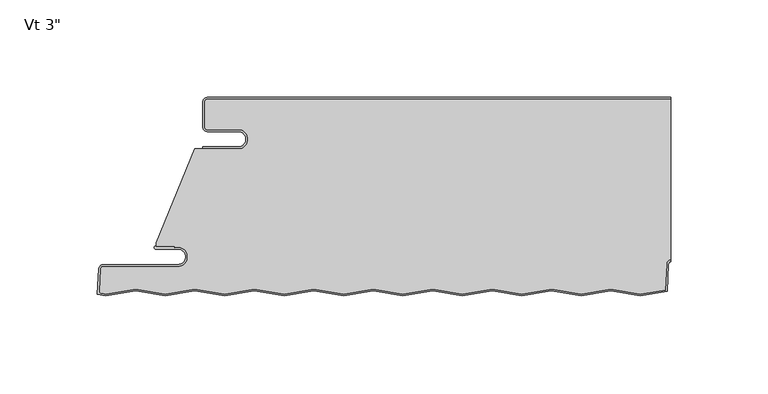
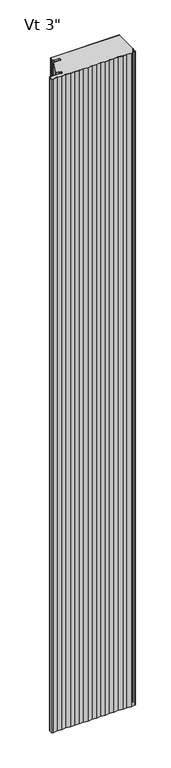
"""IFC4 building model written with IfcOpenShell, lengths in millimetres: plate geometry."""

from ifc_helpers import new_model, si_unit, point, frame, frame_2d, origin, origin_with_axes, place, context, project, spatial, polyline, circle_curve, trimmed, segment, composite_curve, outline, extrude, source, transform, mapped, element, save
from ifc_brep_helpers import plane_surface, cylinder_surface, revolved_surface, advanced_brep


def plate_a6e8fc1d(model_context):
    return source(origin(), model_context, "Body", "SolidModel", [
        extrude(outline(composite_curve([segment(polyline([(-101.3437498, -16.4625), (-117.2187498, -16.4625)]), True, "CONTINUOUS"), segment(trimmed(circle_curve(frame_2d((-117.2187498, -15.08125)), 1.38125), [point((-117.2187498, -16.4625))], [point((-118.5999998, -15.08125))], False, "CARTESIAN"), True, "CONTINUOUS"), segment(polyline([(-118.5999998, -15.08125), (-118.5999998, -2.38125)]), True, "CONTINUOUS"), segment(trimmed(circle_curve(frame_2d((-117.2187498, -2.38125)), 1.38125), [point((-118.5999998, -2.38125))], [point((-117.2187498, -1.0))], False, "CARTESIAN"), True, "CONTINUOUS"), segment(polyline([(-117.2187498, -1.0), (120.4062498, -1.0), (120.4062498, -83.191556)]), True, "CONTINUOUS"), segment(trimmed(circle_curve(frame_2d((120.9323848, -85.725)), 2.5875), [point((120.4062498, -83.191556))], [point((118.3484309, -85.5895807))], True, "CARTESIAN"), True, "CONTINUOUS"), segment(polyline([(118.3484309, -85.5895807), (117.6552662, -98.81595), (104.8725002, -100.8611926), (89.8350676, -98.4552034), (74.5950676, -100.8936034), (59.3550676, -98.4552034), (44.1150676, -100.8936034), (28.8750676, -98.4552034), (13.6350676, -100.8936034), (-1.6049324, -98.4552034), (-16.8449324, -100.8936034), (-32.0849324, -98.4552034), (-47.3249324, -100.8936034), (-62.5649324, -98.4552034), (-77.8049324, -100.8936034), (-93.0449324, -98.4552034), (-108.2849324, -100.8936034), (-123.5249324, -98.4552034), (-138.7649324, -100.8936034), (-154.0049324, -98.4552034), (-169.2449324, -100.8936034), (-171.5109206, -100.5310452)]), True, "CONTINUOUS"), segment(trimmed(circle_curve(frame_2d((-171.0799534, -99.21875)), 1.38125), [point((-171.5109206, -100.5310452))], [point((-172.4593104, -99.146461))], False, "CARTESIAN"), True, "CONTINUOUS"), segment(polyline([(-172.4593104, -99.146461), (-171.876929, -88.033961)]), True, "CONTINUOUS"), segment(trimmed(circle_curve(frame_2d((-170.4975719, -88.10625)), 1.38125), [point((-171.876929, -88.033961))], [point((-170.4975719, -86.725))], False, "CARTESIAN"), True, "CONTINUOUS"), segment(polyline([(-170.4975719, -86.725), (-132.3142673, -86.725)]), True, "CONTINUOUS"), segment(trimmed(circle_curve(frame_2d((-132.3142673, -81.75625)), 4.96875), [point((-132.3142673, -86.725))], [point((-132.3142673, -76.7875))], True, "CARTESIAN"), True, "CONTINUOUS"), segment(polyline([(-132.3142673, -76.7875), (-133.9017673, -76.99375), (-133.9017673, -76.2), (-143.4124998, -76.2), (-143.4124998, -74.6157227), (-123.5260921, -26.4), (-101.3437498, -26.4)]), True, "CONTINUOUS"), segment(trimmed(circle_curve(frame_2d((-101.3437498, -21.43125)), 4.96875), [point((-101.3437498, -26.4))], [point((-101.3437498, -16.4625))], True, "CARTESIAN"), True, "CONTINUOUS")], self_intersect=False)), origin_with_axes(), (0.0, 0.0, 1.0), 2400.0),
        extrude(outline(composite_curve([segment(polyline([(-119.5999998, -25.4), (-101.3437498, -25.4)]), True, "CONTINUOUS"), segment(trimmed(circle_curve(frame_2d((-101.3437498, -21.43125)), 3.96875), [point((-101.3437498, -25.4))], [point((-101.3437498, -17.4625))], True, "CARTESIAN"), True, "CONTINUOUS"), segment(polyline([(-101.3437498, -17.4625), (-117.2187498, -17.4625)]), True, "CONTINUOUS"), segment(trimmed(circle_curve(frame_2d((-117.2187498, -15.08125)), 2.38125), [point((-117.2187498, -17.4625))], [point((-119.5999998, -15.08125))], False, "CARTESIAN"), True, "CONTINUOUS"), segment(polyline([(-119.5999998, -15.08125), (-119.5999998, -2.38125)]), True, "CONTINUOUS"), segment(trimmed(circle_curve(frame_2d((-117.2187498, -2.38125)), 2.38125), [point((-119.5999998, -2.38125))], [point((-117.2187498, 0.0))], False, "CARTESIAN"), True, "CONTINUOUS"), segment(polyline([(-117.2187498, 0.0), (120.4062498, 0.0), (120.4062498, -1.0), (-117.2187498, -1.0)]), True, "CONTINUOUS"), segment(trimmed(circle_curve(frame_2d((-117.2187498, -2.38125)), 1.38125), [point((-117.2187498, -1.0))], [point((-118.5999998, -2.38125))], True, "CARTESIAN"), True, "CONTINUOUS"), segment(polyline([(-118.5999998, -2.38125), (-118.5999998, -15.08125)]), True, "CONTINUOUS"), segment(trimmed(circle_curve(frame_2d((-117.2187498, -15.08125)), 1.38125), [point((-118.5999998, -15.08125))], [point((-117.2187498, -16.4625))], True, "CARTESIAN"), True, "CONTINUOUS"), segment(polyline([(-117.2187498, -16.4625), (-101.3437498, -16.4625)]), True, "CONTINUOUS"), segment(trimmed(circle_curve(frame_2d((-101.3437498, -21.43125)), 4.96875), [point((-101.3437498, -16.4625))], [point((-101.3437498, -26.4))], False, "CARTESIAN"), True, "CONTINUOUS"), segment(polyline([(-101.3437498, -26.4), (-119.5999998, -26.4), (-119.5999998, -25.4)]), True, "CONTINUOUS")], self_intersect=False)), origin_with_axes(), (0.0, 0.0, 1.0), 2400.0),
        advanced_brep(
        [(-143.6252048, -76.2, 2400.0), (-143.6252048, -77.7875, 2400.0), (-132.3142673, -77.7875, 2400.0), (-132.3142673, -85.725, 2400.0), (-170.4975719, -85.725, 2400.0), (-172.8755585, -87.981625, 2400.0), (-173.553306, -100.913818, 2400.0), (-169.2646685, -101.6, 2400.0), (-154.0246685, -99.1616, 2400.0), (-138.7846685, -101.6, 2400.0), (-123.5446685, -99.1616, 2400.0), (-108.3046685, -101.6, 2400.0), (-93.0646685, -99.1616, 2400.0), (-77.8246685, -101.6, 2400.0), (-62.5846685, -99.1616, 2400.0), (-47.3446685, -101.6, 2400.0), (-32.1046685, -99.1616, 2400.0), (-16.8646685, -101.6, 2400.0), (-1.6246685, -99.1616, 2400.0), (13.6153315, -101.6, 2400.0), (28.8553315, -99.1616, 2400.0), (44.0953315, -101.6, 2400.0), (59.3353315, -99.1616, 2400.0), (74.5753315, -101.6, 2400.0), (89.8153315, -99.1616, 2400.0), (104.9540478, -101.5837946, 2400.0), (118.6245136, -99.4289309, 2400.0), (119.3470604, -85.6419167, 2400.0), (120.4062498, -84.2272222, 2400.0), (120.4062498, -83.191556, 2400.0), (118.3484309, -85.5895807, 2400.0), (117.6681967, -98.5692225, 2400.0), (105.0553315, -100.5872809, 2400.0), (89.8153315, -98.1488809, 2400.0), (74.5753315, -100.5872809, 2400.0), (59.3353315, -98.1488809, 2400.0), (44.0953315, -100.5872809, 2400.0), (28.8553315, -98.1488809, 2400.0), (13.6153315, -100.5872809, 2400.0), (-1.6246685, -98.1488809, 2400.0), (-16.8646685, -100.5872809, 2400.0), (-32.1046685, -98.1488809, 2400.0), (-47.3446685, -100.5872809, 2400.0), (-62.5846685, -98.1488809, 2400.0), (-77.8246685, -100.5872809, 2400.0), (-93.0646685, -98.1488809, 2400.0), (-108.3046685, -100.5872809, 2400.0), (-123.5446685, -98.1488809, 2400.0), (-138.7846685, -100.5872809, 2400.0), (-154.0246685, -98.1488809, 2400.0), (-169.2646685, -100.5872809, 2400.0), (-172.5076276, -100.0684074, 2400.0), (-171.876929, -88.033961, 2400.0), (-170.4975719, -86.725, 2400.0), (-132.3142673, -86.725, 2400.0), (-132.3142673, -76.7875, 2400.0), (-133.9017673, -76.99375, 2400.0), (-133.9017673, -76.2, 2400.0), (-143.6252048, -76.2, 0.0), (-133.9017673, -76.2, 0.0), (-133.9017673, -76.99375, 0.0), (-132.3142673, -76.7875, 0.0), (-132.3142673, -86.725, 0.0), (-170.4975719, -86.725, 0.0), (-171.876929, -88.033961, 0.0), (-172.5076276, -100.0684074, 0.0), (-169.2646685, -100.5872809, 0.0), (-154.0246685, -98.1488809, 0.0), (-138.7846685, -100.5872809, 0.0), (-123.5446685, -98.1488809, 0.0), (-108.3046685, -100.5872809, 0.0), (-93.0646685, -98.1488809, 0.0), (-77.8246685, -100.5872809, 0.0), (-62.5846685, -98.1488809, 0.0), (-47.3446685, -100.5872809, 0.0), (-32.1046685, -98.1488809, 0.0), (-16.8646685, -100.5872809, 0.0), (-1.6246685, -98.1488809, 0.0), (13.6153315, -100.5872809, 0.0), (28.8553315, -98.1488809, 0.0), (44.0953315, -100.5872809, 0.0), (59.3353315, -98.1488809, 0.0), (74.5753315, -100.5872809, 0.0), (89.8153315, -98.1488809, 0.0), (104.9540478, -100.5710755, 0.0), (117.6681967, -98.5692225, 0.0), (118.3484309, -85.5895807, 0.0), (120.4062498, -83.191556, 0.0), (120.4062498, -84.2272222, 0.0), (119.3470604, -85.6419167, 0.0), (118.6245136, -99.4289309, 0.0), (105.0553315, -101.6, 0.0), (89.8153315, -99.1616, 0.0), (74.5753315, -101.6, 0.0), (59.3353315, -99.1616, 0.0), (44.0953315, -101.6, 0.0), (28.8553315, -99.1616, 0.0), (13.6153315, -101.6, 0.0), (-1.6246685, -99.1616, 0.0), (-16.8646685, -101.6, 0.0), (-32.1046685, -99.1616, 0.0), (-47.3446685, -101.6, 0.0), (-62.5846685, -99.1616, 0.0), (-77.8246685, -101.6, 0.0), (-93.0646685, -99.1616, 0.0), (-108.3046685, -101.6, 0.0), (-123.5446685, -99.1616, 0.0), (-138.7846685, -101.6, 0.0), (-154.0246685, -99.1616, 0.0), (-169.2646685, -101.6, 0.0), (-173.553306, -100.913818, 0.0), (-172.8755585, -87.981625, 0.0), (-170.4975719, -85.725, 0.0), (-132.3142673, -85.725, 0.0), (-132.3142673, -77.7875, 0.0), (-143.6252048, -77.7875, 0.0)],
        [
            (0, 1, circle_curve(frame((-143.6252048, -76.99375, 2400.0), z_axis=(0.0, 0.0, 1.0), x_axis=(1.0, 0.0, 0.0)), 0.79375)),
            (1, 2),
            (2, 3, circle_curve(frame((-132.3142673, -81.75625, 2400.0), z_axis=(0.0, 0.0, -1.0), x_axis=(1.0, 0.0, 0.0)), 3.96875)),
            (3, 4),
            (4, 5, circle_curve(frame((-170.4975719, -88.10625, 2400.0), z_axis=(0.0, 0.0, 1.0), x_axis=(1.0, 0.0, 0.0)), 2.38125)),
            (5, 6),
            (6, 7),
            (7, 8),
            (8, 9),
            (9, 10),
            (10, 11),
            (11, 12),
            (12, 13),
            (13, 14),
            (14, 15),
            (15, 16),
            (16, 17),
            (17, 18),
            (18, 19),
            (19, 20),
            (20, 21),
            (21, 22),
            (22, 23),
            (23, 24),
            (24, 25),
            (25, 26),
            (26, 27),
            (27, 28, circle_curve(frame((120.9323848, -85.725, 2400.0), z_axis=(0.0, 0.0, -1.0), x_axis=(1.0, 0.0, 0.0)), 1.5875)),
            (28, 29),
            (29, 30, circle_curve(frame((120.9323848, -85.725, 2400.0), z_axis=(0.0, 0.0, 1.0), x_axis=(1.0, 0.0, 0.0)), 2.5875)),
            (30, 31),
            (31, 32),
            (32, 33),
            (33, 34),
            (34, 35),
            (35, 36),
            (36, 37),
            (37, 38),
            (38, 39),
            (39, 40),
            (40, 41),
            (41, 42),
            (42, 43),
            (43, 44),
            (44, 45),
            (45, 46),
            (46, 47),
            (47, 48),
            (48, 49),
            (49, 50),
            (50, 51),
            (51, 52),
            (52, 53, circle_curve(frame((-170.4975719, -88.10625, 2400.0), z_axis=(0.0, 0.0, -1.0), x_axis=(1.0, 0.0, 0.0)), 1.38125)),
            (53, 54),
            (54, 55, circle_curve(frame((-132.3142673, -81.75625, 2400.0), z_axis=(0.0, 0.0, 1.0), x_axis=(1.0, 0.0, 0.0)), 4.96875)),
            (55, 56),
            (56, 57),
            (57, 0),
            (58, 59),
            (59, 60),
            (60, 61),
            (61, 62, circle_curve(frame((-132.3142673, -81.75625, 0.0), z_axis=(0.0, 0.0, -1.0), x_axis=(1.0, 0.0, 0.0)), 4.96875)),
            (62, 63),
            (63, 64, circle_curve(frame((-170.4975719, -88.10625, 0.0), z_axis=(0.0, 0.0, 1.0), x_axis=(1.0, 0.0, 0.0)), 1.38125)),
            (64, 65),
            (65, 66),
            (66, 67),
            (67, 68),
            (68, 69),
            (69, 70),
            (70, 71),
            (71, 72),
            (72, 73),
            (73, 74),
            (74, 75),
            (75, 76),
            (76, 77),
            (77, 78),
            (78, 79),
            (79, 80),
            (80, 81),
            (81, 82),
            (82, 83),
            (83, 84),
            (84, 85),
            (85, 86),
            (86, 87, circle_curve(frame((120.9323848, -85.725, 0.0), z_axis=(0.0, 0.0, -1.0), x_axis=(1.0, 0.0, 0.0)), 2.5875)),
            (87, 88),
            (88, 89, circle_curve(frame((120.9323848, -85.725, 0.0), z_axis=(0.0, 0.0, 1.0), x_axis=(1.0, 0.0, 0.0)), 1.5875)),
            (89, 90),
            (90, 91),
            (91, 92),
            (92, 93),
            (93, 94),
            (94, 95),
            (95, 96),
            (96, 97),
            (97, 98),
            (98, 99),
            (99, 100),
            (100, 101),
            (101, 102),
            (102, 103),
            (103, 104),
            (104, 105),
            (105, 106),
            (106, 107),
            (107, 108),
            (108, 109),
            (109, 110),
            (110, 111),
            (111, 112, circle_curve(frame((-170.4975719, -88.10625, 0.0), z_axis=(0.0, 0.0, -1.0), x_axis=(1.0, 0.0, 0.0)), 2.38125)),
            (112, 113),
            (113, 114, circle_curve(frame((-132.3142673, -81.75625, 0.0), z_axis=(0.0, 0.0, 1.0), x_axis=(1.0, 0.0, 0.0)), 3.96875)),
            (114, 115),
            (115, 58, circle_curve(frame((-143.6252048, -76.99375, 0.0), z_axis=(0.0, 0.0, -1.0), x_axis=(1.0, 0.0, 0.0)), 0.79375)),
            (57, 59),
            (58, 0),
            (115, 1),
            (114, 2),
            (113, 3),
            (112, 4),
            (111, 5),
            (110, 6),
            (88, 28),
            (27, 89),
            (52, 64),
            (63, 53),
            (51, 65),
            (29, 87),
            (86, 30),
            (62, 54),
            (61, 55),
            (56, 60),
            (26, 90),
            (85, 31),
            (24, 92),
            (91, 25),
            (32, 84),
            (83, 33),
            (82, 34),
            (81, 35),
            (80, 36),
            (45, 71),
            (70, 46),
            (69, 47),
            (68, 48),
            (67, 49),
            (44, 72),
            (43, 73),
            (42, 74),
            (41, 75),
            (40, 76),
            (39, 77),
            (38, 78),
            (37, 79),
            (66, 50),
            (109, 7),
            (108, 8),
            (107, 9),
            (106, 10),
            (105, 11),
            (104, 12),
            (103, 13),
            (102, 14),
            (101, 15),
            (100, 16),
            (99, 17),
            (98, 18),
            (21, 95),
            (94, 22),
            (93, 23),
            (20, 96),
            (19, 97),
        ],
        [
            plane_surface(frame((32.0062502, -101.6, 2400.0), z_axis=(0.0, 0.0, 1.0), x_axis=(0.0, -1.0, 0.0))),
            plane_surface(frame((32.0062502, -101.6, 0.0), z_axis=(0.0, 0.0, -1.0), x_axis=(0.0, -1.0, 0.0))),
            plane_surface(frame((-143.6252048, -76.2, 2400.0), z_axis=(0.0, 1.0, 0.0), x_axis=(0.0, 0.0, -1.0))),
            cylinder_surface(frame((-143.6252048, -76.99375, 2400.0), z_axis=(0.0, 0.0, 1.0), x_axis=(1.0, 0.0, 0.0)), 0.79375),
            plane_surface(frame((-132.3142673, -77.7875, 2400.0), z_axis=(0.0, -1.0, 0.0), x_axis=(0.0, 0.0, -1.0))),
            revolved_surface(polyline([(-128.3455173, -81.75625, 0.0), (-128.3455173, -81.75625, 2400.0)]), (-132.3142673, -81.75625, 2400.0), (0.0, 0.0, -1.0)),
            plane_surface(frame((-170.4975719, -85.725, 2400.0), z_axis=(0.0, 1.0, 0.0), x_axis=(0.0, 0.0, -1.0))),
            cylinder_surface(frame((-170.4975719, -88.10625, 2400.0), z_axis=(0.0, 0.0, 1.0), x_axis=(1.0, 0.0, 0.0)), 2.38125),
            plane_surface(frame((-173.553306, -100.913818, 2400.0), z_axis=(-0.9986295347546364, 0.05233595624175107, 0.0), x_axis=(0.0, 0.0, -1.0))),
            revolved_surface(polyline([(122.5198848, -85.725, 0.0), (122.5198848, -85.725, 2400.0)]), (120.9323848, -85.725, 2400.0), (0.0, 0.0, -1.0)),
            revolved_surface(polyline([(-169.1163219, -88.10625, 0.0), (-169.1163219, -88.10625, 2400.0)]), (-170.4975719, -88.10625, 2400.0), (0.0, 0.0, -1.0)),
            plane_surface(frame((-171.876929, -88.033961, 2400.0), z_axis=(0.9986295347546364, -0.05233595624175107, 0.0), x_axis=(0.0, 0.0, -1.0))),
            cylinder_surface(frame((120.9323848, -85.725, 2400.0), z_axis=(0.0, 0.0, 1.0), x_axis=(1.0, 0.0, 0.0)), 2.5875),
            plane_surface(frame((-132.3142673, -86.725, 2400.0), z_axis=(0.0, -1.0, 0.0), x_axis=(0.0, 0.0, -1.0))),
            cylinder_surface(frame((-132.3142673, -81.75625, 2400.0), z_axis=(0.0, 0.0, 1.0), x_axis=(1.0, 0.0, 0.0)), 4.96875),
            plane_surface(frame((-133.9017673, -76.2, 2400.0), z_axis=(1.0, 0.0, 0.0), x_axis=(0.0, 0.0, -1.0))),
            plane_surface(frame((-133.9017673, -76.99375, 2400.0), z_axis=(-0.12883844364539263, 0.9916655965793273, 0.0), x_axis=(0.0, 0.0, -1.0))),
            plane_surface(frame((119.3470604, -85.6419167, 2400.0), z_axis=(0.9986295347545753, -0.052335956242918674, 0.0), x_axis=(0.0, 0.0, -1.0))),
            plane_surface(frame((117.6681967, -98.5692225, 2400.0), z_axis=(-0.9986295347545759, 0.05233595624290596, 0.0), x_axis=(0.0, 0.0, -1.0))),
            plane_surface(frame((104.9540478, -101.5837946, 2400.0), z_axis=(-0.15799050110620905, -0.9874406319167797, 0.0), x_axis=(0.0, 0.0, -1.0))),
            plane_surface(frame((89.8153315, -98.1488809, 2400.0), z_axis=(0.15799050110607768, 0.9874406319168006, 0.0), x_axis=(0.0, 0.0, -1.0))),
            plane_surface(frame((74.5753315, -100.5872809, 2400.0), z_axis=(-0.15799050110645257, 0.9874406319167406, 0.0), x_axis=(0.0, 0.0, -1.0))),
            plane_surface(frame((59.3353315, -98.1488809, 2400.0), z_axis=(0.157990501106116, 0.9874406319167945, 0.0), x_axis=(0.0, 0.0, -1.0))),
            plane_surface(frame((44.0953315, -100.5872809, 2400.0), z_axis=(-0.15799050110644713, 0.9874406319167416, 0.0), x_axis=(0.0, 0.0, -1.0))),
            plane_surface(frame((-108.3046685, -100.5872809, 2400.0), z_axis=(-0.15799050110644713, 0.9874406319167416, 0.0), x_axis=(0.0, 0.0, -1.0))),
            plane_surface(frame((-123.5446685, -98.1488809, 2400.0), z_axis=(0.15799050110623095, 0.9874406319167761, 0.0), x_axis=(0.0, 0.0, -1.0))),
            plane_surface(frame((-138.7846685, -100.5872809, 2400.0), z_axis=(-0.15799050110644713, 0.9874406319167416, 0.0), x_axis=(0.0, 0.0, -1.0))),
            plane_surface(frame((-154.0246685, -98.1488809, 2400.0), z_axis=(0.157990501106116, 0.9874406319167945, 0.0), x_axis=(0.0, 0.0, -1.0))),
            plane_surface(frame((-93.0646685, -98.1488809, 2400.0), z_axis=(0.15799050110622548, 0.987440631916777, 0.0), x_axis=(0.0, 0.0, -1.0))),
            plane_surface(frame((-77.8246685, -100.5872809, 2400.0), z_axis=(-0.15799050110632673, 0.9874406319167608, 0.0), x_axis=(0.0, 0.0, -1.0))),
            plane_surface(frame((-62.5846685, -98.1488809, 2400.0), z_axis=(0.15799050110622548, 0.987440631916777, 0.0), x_axis=(0.0, 0.0, -1.0))),
            plane_surface(frame((-47.3446685, -100.5872809, 2400.0), z_axis=(-0.15799050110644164, 0.9874406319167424, 0.0), x_axis=(0.0, 0.0, -1.0))),
            plane_surface(frame((-32.1046685, -98.1488809, 2400.0), z_axis=(0.15799050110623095, 0.9874406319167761, 0.0), x_axis=(0.0, 0.0, -1.0))),
            plane_surface(frame((-16.8646685, -100.5872809, 2400.0), z_axis=(-0.15799050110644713, 0.9874406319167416, 0.0), x_axis=(0.0, 0.0, -1.0))),
            plane_surface(frame((-1.6246685, -98.1488809, 2400.0), z_axis=(0.157990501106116, 0.9874406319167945, 0.0), x_axis=(0.0, 0.0, -1.0))),
            plane_surface(frame((13.6153315, -100.5872809, 2400.0), z_axis=(-0.15799050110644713, 0.9874406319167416, 0.0), x_axis=(0.0, 0.0, -1.0))),
            plane_surface(frame((28.8553315, -98.1488809, 2400.0), z_axis=(0.15799050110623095, 0.9874406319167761, 0.0), x_axis=(0.0, 0.0, -1.0))),
            plane_surface(frame((-169.2646685, -100.5872809, 2400.0), z_axis=(-0.15799050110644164, 0.9874406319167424, 0.0), x_axis=(0.0, 0.0, -1.0))),
            plane_surface(frame((-172.5076276, -100.0684074, 2400.0), z_axis=(0.1579905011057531, 0.9874406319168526, 0.0), x_axis=(0.0, 0.0, -1.0))),
            plane_surface(frame((-169.2646685, -101.6, 2400.0), z_axis=(-0.15799050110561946, -0.9874406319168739, 0.0), x_axis=(0.0, 0.0, -1.0))),
            plane_surface(frame((-154.0246685, -99.1616, 2400.0), z_axis=(0.15799050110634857, -0.9874406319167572, 0.0), x_axis=(0.0, 0.0, -1.0))),
            plane_surface(frame((-138.7846685, -101.6, 2400.0), z_axis=(-0.15799050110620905, -0.9874406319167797, 0.0), x_axis=(0.0, 0.0, -1.0))),
            plane_surface(frame((-123.5446685, -99.1616, 2400.0), z_axis=(0.15799050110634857, -0.9874406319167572, 0.0), x_axis=(0.0, 0.0, -1.0))),
            plane_surface(frame((-108.3046685, -101.6, 2400.0), z_axis=(-0.15799050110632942, -0.9874406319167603, 0.0), x_axis=(0.0, 0.0, -1.0))),
            plane_surface(frame((-93.0646685, -99.1616, 2400.0), z_axis=(0.15799050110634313, -0.9874406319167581, 0.0), x_axis=(0.0, 0.0, -1.0))),
            plane_surface(frame((-77.8246685, -101.6, 2400.0), z_axis=(-0.15799050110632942, -0.9874406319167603, 0.0), x_axis=(0.0, 0.0, -1.0))),
            plane_surface(frame((-62.5846685, -99.1616, 2400.0), z_axis=(0.1579905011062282, -0.9874406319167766, 0.0), x_axis=(0.0, 0.0, -1.0))),
            plane_surface(frame((-47.3446685, -101.6, 2400.0), z_axis=(-0.15799050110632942, -0.9874406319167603, 0.0), x_axis=(0.0, 0.0, -1.0))),
            plane_surface(frame((-32.1046685, -99.1616, 2400.0), z_axis=(0.15799050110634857, -0.9874406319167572, 0.0), x_axis=(0.0, 0.0, -1.0))),
            plane_surface(frame((-16.8646685, -101.6, 2400.0), z_axis=(-0.15799050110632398, -0.9874406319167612, 0.0), x_axis=(0.0, 0.0, -1.0))),
            plane_surface(frame((-1.6246685, -99.1616, 2400.0), z_axis=(0.15799050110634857, -0.9874406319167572, 0.0), x_axis=(0.0, 0.0, -1.0))),
            plane_surface(frame((59.3353315, -99.1616, 2400.0), z_axis=(0.15799050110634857, -0.9874406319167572, 0.0), x_axis=(0.0, 0.0, -1.0))),
            plane_surface(frame((74.5753315, -101.6, 2400.0), z_axis=(-0.15799050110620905, -0.9874406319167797, 0.0), x_axis=(0.0, 0.0, -1.0))),
            plane_surface(frame((89.8153315, -99.1616, 2400.0), z_axis=(0.15799050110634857, -0.9874406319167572, 0.0), x_axis=(0.0, 0.0, -1.0))),
            plane_surface(frame((44.0953315, -101.6, 2400.0), z_axis=(-0.15799050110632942, -0.9874406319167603, 0.0), x_axis=(0.0, 0.0, -1.0))),
            plane_surface(frame((28.8553315, -99.1616, 2400.0), z_axis=(0.15799050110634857, -0.9874406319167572, 0.0), x_axis=(0.0, 0.0, -1.0))),
            plane_surface(frame((13.6153315, -101.6, 2400.0), z_axis=(-0.15799050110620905, -0.9874406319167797, 0.0), x_axis=(0.0, 0.0, -1.0))),
            plane_surface(frame((118.6245136, -99.4289309, 2400.0), z_axis=(0.15799050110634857, -0.9874406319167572, 0.0), x_axis=(0.0, 0.0, -1.0))),
            plane_surface(frame((105.0553315, -100.5872809, 2400.0), z_axis=(-0.15799050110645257, 0.9874406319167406, 0.0), x_axis=(0.0, 0.0, -1.0))),
            plane_surface(frame((120.4062498, -111.6, 2400.0), z_axis=(1.0, 0.0, 0.0), x_axis=(0.0, 0.0, -1.0))),
        ],
        [
            (0, [[1, 2, 3, 4, 5, 6, 7, 8, 9, 10, 11, 12, 13, 14, 15, 16, 17, 18, 19, 20, 21, 22, 23, 24, 25, 26, 27, 28, 29, 30, 31, 32, 33, 34, 35, 36, 37, 38, 39, 40, 41, 42, 43, 44, 45, 46, 47, 48, 49, 50, 51, 52, 53, 54, 55, 56, 57, 58]]),
            (1, [[59, 60, 61, 62, 63, 64, 65, 66, 67, 68, 69, 70, 71, 72, 73, 74, 75, 76, 77, 78, 79, 80, 81, 82, 83, 84, 85, 86, 87, 88, 89, 90, 91, 92, 93, 94, 95, 96, 97, 98, 99, 100, 101, 102, 103, 104, 105, 106, 107, 108, 109, 110, 111, 112, 113, 114, 115, 116]]),
            (2, [[117, -59, 118, -58]]),
            (3, [[-118, -116, 119, -1]]),
            (4, [[-119, -115, 120, -2]]),
            (5, [[-120, -114, 121, -3]]),
            (6, [[-121, -113, 122, -4]]),
            (7, [[-122, -112, 123, -5]]),
            (8, [[-123, -111, 124, -6]]),
            (9, [[-89, 125, -28, 126]]),
            (10, [[127, -64, 128, -53]]),
            (11, [[129, -65, -127, -52]]),
            (12, [[-30, 130, -87, 131]]),
            (13, [[-128, -63, 132, -54]]),
            (14, [[-132, -62, 133, -55]]),
            (15, [[134, -60, -117, -57]]),
            (16, [[-133, -61, -134, -56]]),
            (17, [[135, -90, -126, -27]]),
            (18, [[-131, -86, 136, -31]]),
            (19, [[137, -92, 138, -25]]),
            (20, [[139, -84, 140, -33]]),
            (21, [[-140, -83, 141, -34]]),
            (22, [[-141, -82, 142, -35]]),
            (23, [[-142, -81, 143, -36]]),
            (24, [[144, -71, 145, -46]]),
            (25, [[-145, -70, 146, -47]]),
            (26, [[-146, -69, 147, -48]]),
            (27, [[-147, -68, 148, -49]]),
            (28, [[149, -72, -144, -45]]),
            (29, [[150, -73, -149, -44]]),
            (30, [[151, -74, -150, -43]]),
            (31, [[152, -75, -151, -42]]),
            (32, [[153, -76, -152, -41]]),
            (33, [[154, -77, -153, -40]]),
            (34, [[155, -78, -154, -39]]),
            (35, [[156, -79, -155, -38]]),
            (36, [[-143, -80, -156, -37]]),
            (37, [[-148, -67, 157, -50]]),
            (38, [[-157, -66, -129, -51]]),
            (39, [[-124, -110, 158, -7]]),
            (40, [[-158, -109, 159, -8]]),
            (41, [[-159, -108, 160, -9]]),
            (42, [[-160, -107, 161, -10]]),
            (43, [[-161, -106, 162, -11]]),
            (44, [[-162, -105, 163, -12]]),
            (45, [[-163, -104, 164, -13]]),
            (46, [[-164, -103, 165, -14]]),
            (47, [[-165, -102, 166, -15]]),
            (48, [[-166, -101, 167, -16]]),
            (49, [[-167, -100, 168, -17]]),
            (50, [[-168, -99, 169, -18]]),
            (51, [[170, -95, 171, -22]]),
            (52, [[-171, -94, 172, -23]]),
            (53, [[-172, -93, -137, -24]]),
            (54, [[173, -96, -170, -21]]),
            (55, [[174, -97, -173, -20]]),
            (56, [[-169, -98, -174, -19]]),
            (57, [[-138, -91, -135, -26]]),
            (58, [[-136, -85, -139, -32]]),
            (59, [[-125, -88, -130, -29]]),
        ],
    ),
    ])


if __name__ == "__main__":
    model = new_model("IFC4")
    model_context = context("Model", 3, world=origin())
    ifc_project = project(units=[si_unit("LENGTHUNIT", "METRE", prefix="MILLI")], contexts=[model_context])
    site = spatial("IfcSite", under=ifc_project)
    building = spatial("IfcBuilding", under=site)
    placement = place(None, origin())
    plate_shape = plate_a6e8fc1d(model_context)
    element("IfcPlate", 1, ObjectType="KIP-12-DWHR-R19-CP-Vt-S : Vt 3\"", at=placement, inside=building, context=model_context, shape_type="MappedRepresentation", body=[
        mapped(plate_shape, transform((0.0, 0.0, 0.0), x_axis=(1.0, 0.0, 0.0), y_axis=(0.0, 1.0, 0.0), z_axis=(0.0, 0.0, 1.0))),
    ])
    save(model, "model.ifc")
